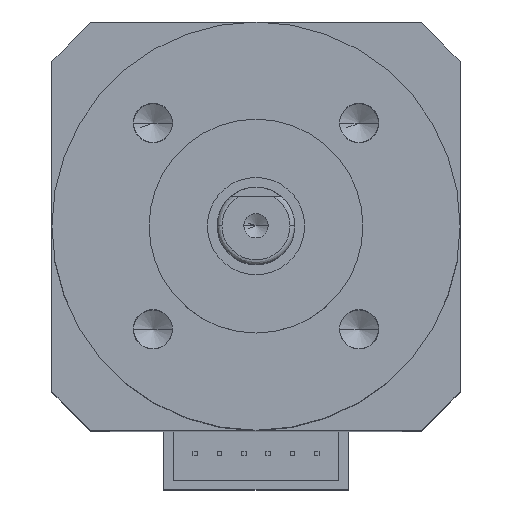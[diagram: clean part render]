
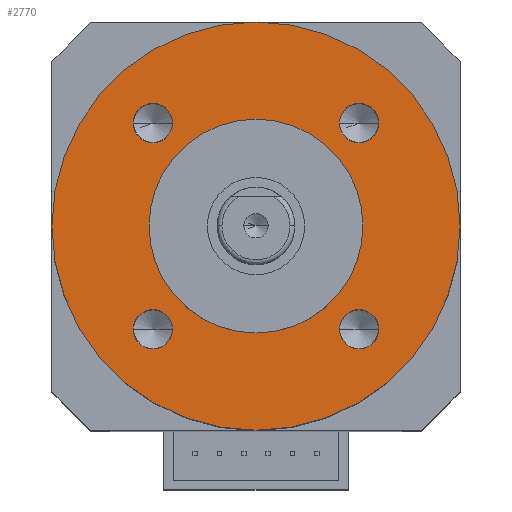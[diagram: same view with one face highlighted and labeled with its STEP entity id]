
A CAD part, top view. The second image highlights one B-rep face of the part: STEP entity #2770.
In plain terms, the highlighted planar face has unit normal (0, 0, 1).
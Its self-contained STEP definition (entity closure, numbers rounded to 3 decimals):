
#7 = DIRECTION ( 'NONE',  ( 0., 0., 1. ) ) ;
#31 = EDGE_CURVE ( 'NONE', #1978, #3519, #2390, .T. ) ;
#78 = CARTESIAN_POINT ( 'NONE',  ( -10.607, -10.607, 0. ) ) ;
#87 = VERTEX_POINT ( 'NONE', #3567 ) ;
#101 = EDGE_CURVE ( 'NONE', #2228, #1499, #305, .T. ) ;
#115 = CARTESIAN_POINT ( 'NONE',  ( -10.607, 10.607, 0. ) ) ;
#127 = DIRECTION ( 'NONE',  ( 1., 0., 0. ) ) ;
#138 = DIRECTION ( 'NONE',  ( 0., 0., 1. ) ) ;
#172 = ORIENTED_EDGE ( 'NONE', *, *, #101, .F. ) ;
#176 = EDGE_CURVE ( 'NONE', #87, #1066, #2999, .T. ) ;
#183 = AXIS2_PLACEMENT_3D ( 'NONE', #2374, #3525, #664 ) ;
#302 = DIRECTION ( 'NONE',  ( 1., 0., 0. ) ) ;
#305 = CIRCLE ( 'NONE', #1722, 2.025 ) ;
#343 = CIRCLE ( 'NONE', #183, 11. ) ;
#350 = EDGE_LOOP ( 'NONE', ( #2521, #2912 ) ) ;
#391 = VERTEX_POINT ( 'NONE', #1253 ) ;
#398 = EDGE_CURVE ( 'NONE', #1499, #2228, #1095, .T. ) ;
#441 = CARTESIAN_POINT ( 'NONE',  ( -8.582, -10.607, 0. ) ) ;
#473 = CARTESIAN_POINT ( 'NONE',  ( 21., 0., 0. ) ) ;
#489 = EDGE_LOOP ( 'NONE', ( #2002, #1685 ) ) ;
#570 = DIRECTION ( 'NONE',  ( -1., 0., 0. ) ) ;
#612 = FACE_BOUND ( 'NONE', #1777, .T. ) ;
#664 = DIRECTION ( 'NONE',  ( -1., 0., 0. ) ) ;
#761 = AXIS2_PLACEMENT_3D ( 'NONE', #1842, #138, #2124 ) ;
#795 = DIRECTION ( 'NONE',  ( 1., 0., 0. ) ) ;
#858 = AXIS2_PLACEMENT_3D ( 'NONE', #3102, #7, #2280 ) ;
#943 = CARTESIAN_POINT ( 'NONE',  ( -11., 0., 0. ) ) ;
#961 = ORIENTED_EDGE ( 'NONE', *, *, #3064, .F. ) ;
#1011 = DIRECTION ( 'NONE',  ( 0., 0., 1. ) ) ;
#1044 = CARTESIAN_POINT ( 'NONE',  ( -10.607, -10.607, 0. ) ) ;
#1066 = VERTEX_POINT ( 'NONE', #441 ) ;
#1079 = EDGE_CURVE ( 'NONE', #1066, #87, #2382, .T. ) ;
#1086 = CARTESIAN_POINT ( 'NONE',  ( -12.632, 10.607, 0. ) ) ;
#1095 = CIRCLE ( 'NONE', #761, 2.025 ) ;
#1168 = DIRECTION ( 'NONE',  ( 1., 0., 0. ) ) ;
#1211 = CARTESIAN_POINT ( 'NONE',  ( -21., 0., 0. ) ) ;
#1253 = CARTESIAN_POINT ( 'NONE',  ( -8.582, 10.607, 0. ) ) ;
#1261 = VERTEX_POINT ( 'NONE', #3400 ) ;
#1315 = CARTESIAN_POINT ( 'NONE',  ( 0., 0., 0. ) ) ;
#1335 = CARTESIAN_POINT ( 'NONE',  ( 0., 0., 0. ) ) ;
#1352 = DIRECTION ( 'NONE',  ( 0., 0., 1. ) ) ;
#1374 = ORIENTED_EDGE ( 'NONE', *, *, #2012, .F. ) ;
#1385 = FACE_BOUND ( 'NONE', #1756, .T. ) ;
#1499 = VERTEX_POINT ( 'NONE', #2656 ) ;
#1555 = DIRECTION ( 'NONE',  ( -1., 0., 0. ) ) ;
#1618 = DIRECTION ( 'NONE',  ( 0., 0., 1. ) ) ;
#1685 = ORIENTED_EDGE ( 'NONE', *, *, #3246, .F. ) ;
#1722 = AXIS2_PLACEMENT_3D ( 'NONE', #3364, #2532, #302 ) ;
#1727 = ORIENTED_EDGE ( 'NONE', *, *, #3538, .F. ) ;
#1756 = EDGE_LOOP ( 'NONE', ( #3111, #3219 ) ) ;
#1777 = EDGE_LOOP ( 'NONE', ( #2047, #961 ) ) ;
#1793 = EDGE_CURVE ( 'NONE', #1261, #2442, #2196, .T. ) ;
#1801 = CARTESIAN_POINT ( 'NONE',  ( 0., 0., 0. ) ) ;
#1842 = CARTESIAN_POINT ( 'NONE',  ( 10.607, 10.607, 0. ) ) ;
#1896 = ORIENTED_EDGE ( 'NONE', *, *, #398, .F. ) ;
#1905 = DIRECTION ( 'NONE',  ( 1., 0., 0. ) ) ;
#1906 = CIRCLE ( 'NONE', #2282, 2.025 ) ;
#1978 = VERTEX_POINT ( 'NONE', #943 ) ;
#2002 = ORIENTED_EDGE ( 'NONE', *, *, #3079, .F. ) ;
#2012 = EDGE_CURVE ( 'NONE', #2062, #2351, #2541, .T. ) ;
#2047 = ORIENTED_EDGE ( 'NONE', *, *, #31, .F. ) ;
#2060 = DIRECTION ( 'NONE',  ( 0., 0., 1. ) ) ;
#2062 = VERTEX_POINT ( 'NONE', #1211 ) ;
#2092 = AXIS2_PLACEMENT_3D ( 'NONE', #2745, #1011, #3597 ) ;
#2111 = AXIS2_PLACEMENT_3D ( 'NONE', #2275, #3407, #570 ) ;
#2124 = DIRECTION ( 'NONE',  ( 1., 0., 0. ) ) ;
#2142 = FACE_BOUND ( 'NONE', #3663, .T. ) ;
#2196 = CIRCLE ( 'NONE', #858, 2.025 ) ;
#2228 = VERTEX_POINT ( 'NONE', #3595 ) ;
#2249 = CARTESIAN_POINT ( 'NONE',  ( 12.632, -10.607, 0. ) ) ;
#2262 = CIRCLE ( 'NONE', #2905, 2.025 ) ;
#2269 = VERTEX_POINT ( 'NONE', #1086 ) ;
#2275 = CARTESIAN_POINT ( 'NONE',  ( -21., -21., 0. ) ) ;
#2280 = DIRECTION ( 'NONE',  ( 1., 0., 0. ) ) ;
#2282 = AXIS2_PLACEMENT_3D ( 'NONE', #115, #3514, #3220 ) ;
#2299 = AXIS2_PLACEMENT_3D ( 'NONE', #1315, #3584, #1555 ) ;
#2351 = VERTEX_POINT ( 'NONE', #473 ) ;
#2374 = CARTESIAN_POINT ( 'NONE',  ( 0., 0., 0. ) ) ;
#2382 = CIRCLE ( 'NONE', #3230, 2.025 ) ;
#2390 = CIRCLE ( 'NONE', #2299, 11. ) ;
#2442 = VERTEX_POINT ( 'NONE', #2249 ) ;
#2518 = CARTESIAN_POINT ( 'NONE',  ( -10.607, 10.607, 0. ) ) ;
#2521 = ORIENTED_EDGE ( 'NONE', *, *, #3215, .F. ) ;
#2532 = DIRECTION ( 'NONE',  ( 0., 0., 1. ) ) ;
#2541 = CIRCLE ( 'NONE', #3635, 21. ) ;
#2613 = FACE_BOUND ( 'NONE', #350, .T. ) ;
#2656 = CARTESIAN_POINT ( 'NONE',  ( 8.582, 10.607, 0. ) ) ;
#2745 = CARTESIAN_POINT ( 'NONE',  ( 10.607, -10.607, 0. ) ) ;
#2770 = ADVANCED_FACE ( 'NONE', ( #3275, #2142, #2613, #1385, #2919, #612 ), #3322, .F. ) ;
#2905 = AXIS2_PLACEMENT_3D ( 'NONE', #2518, #1352, #795 ) ;
#2912 = ORIENTED_EDGE ( 'NONE', *, *, #1793, .F. ) ;
#2919 = FACE_OUTER_BOUND ( 'NONE', #3153, .T. ) ;
#2978 = CARTESIAN_POINT ( 'NONE',  ( 11., 0., 0. ) ) ;
#2999 = CIRCLE ( 'NONE', #3419, 2.025 ) ;
#3064 = EDGE_CURVE ( 'NONE', #3519, #1978, #343, .T. ) ;
#3079 = EDGE_CURVE ( 'NONE', #391, #2269, #1906, .T. ) ;
#3102 = CARTESIAN_POINT ( 'NONE',  ( 10.607, -10.607, 0. ) ) ;
#3111 = ORIENTED_EDGE ( 'NONE', *, *, #1079, .F. ) ;
#3153 = EDGE_LOOP ( 'NONE', ( #1727, #1374 ) ) ;
#3215 = EDGE_CURVE ( 'NONE', #2442, #1261, #3490, .T. ) ;
#3219 = ORIENTED_EDGE ( 'NONE', *, *, #176, .F. ) ;
#3220 = DIRECTION ( 'NONE',  ( 1., 0., 0. ) ) ;
#3230 = AXIS2_PLACEMENT_3D ( 'NONE', #1044, #1618, #3607 ) ;
#3246 = EDGE_CURVE ( 'NONE', #2269, #391, #2262, .T. ) ;
#3275 = FACE_BOUND ( 'NONE', #489, .T. ) ;
#3304 = AXIS2_PLACEMENT_3D ( 'NONE', #1335, #3602, #1905 ) ;
#3322 = PLANE ( 'NONE',  #2111 ) ;
#3364 = CARTESIAN_POINT ( 'NONE',  ( 10.607, 10.607, 0. ) ) ;
#3400 = CARTESIAN_POINT ( 'NONE',  ( 8.582, -10.607, 0. ) ) ;
#3407 = DIRECTION ( 'NONE',  ( 0., 0., -1. ) ) ;
#3419 = AXIS2_PLACEMENT_3D ( 'NONE', #78, #2060, #1168 ) ;
#3442 = CIRCLE ( 'NONE', #3304, 21. ) ;
#3490 = CIRCLE ( 'NONE', #2092, 2.025 ) ;
#3513 = DIRECTION ( 'NONE',  ( 0., 0., -1. ) ) ;
#3514 = DIRECTION ( 'NONE',  ( 0., 0., 1. ) ) ;
#3519 = VERTEX_POINT ( 'NONE', #2978 ) ;
#3525 = DIRECTION ( 'NONE',  ( 0., 0., 1. ) ) ;
#3538 = EDGE_CURVE ( 'NONE', #2351, #2062, #3442, .T. ) ;
#3567 = CARTESIAN_POINT ( 'NONE',  ( -12.632, -10.607, 0. ) ) ;
#3584 = DIRECTION ( 'NONE',  ( 0., 0., 1. ) ) ;
#3595 = CARTESIAN_POINT ( 'NONE',  ( 12.632, 10.607, 0. ) ) ;
#3597 = DIRECTION ( 'NONE',  ( 1., 0., 0. ) ) ;
#3602 = DIRECTION ( 'NONE',  ( 0., 0., -1. ) ) ;
#3607 = DIRECTION ( 'NONE',  ( 1., 0., 0. ) ) ;
#3635 = AXIS2_PLACEMENT_3D ( 'NONE', #1801, #3513, #127 ) ;
#3663 = EDGE_LOOP ( 'NONE', ( #172, #1896 ) ) ;
